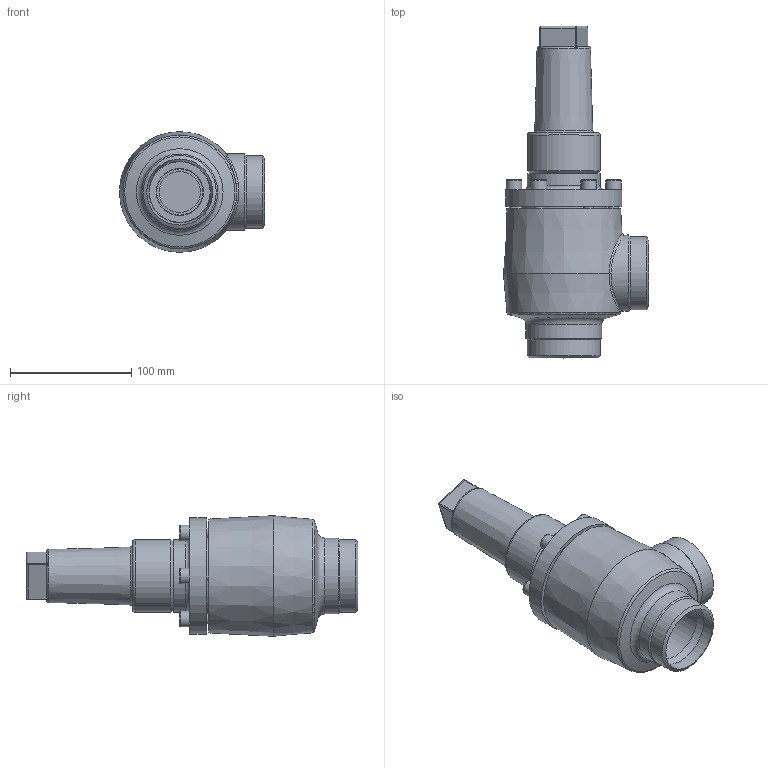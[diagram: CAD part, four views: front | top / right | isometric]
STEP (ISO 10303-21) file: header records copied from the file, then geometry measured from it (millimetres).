
FILE_DESCRIPTION(/* description */ (''),/* implementation_level */ '2;1');
FILE_NAME(/* name */ 'A:\Zeichnungsverwaltung\3D-Zeichnungen\Z-ZG\AVB\16400\15\E\AVB E AE 16400-050 PS40.stp',/* time_stamp */ '2020-10-28T10:44:54+01:00',/* author */ ('Nazzal.Yo'),/* organization */ (''),/* preprocessor_version */ 'ST-DEVELOPER v16.1',/* originating_system */ 'Autodesk Inventor 2016',/* authorisation */ '');
FILE_SCHEMA (('AUTOMOTIVE_DESIGN { 1 0 10303 214 3 1 1 }'));
Length unit declared in the file: millimetre
Products named in the file (6): 16400E15.5034004; Zylinderschraube-DIN912_M 8x 25; Deckel16300E15-DN40-50_Standard; AVB16300E15_Deck+Schr-DN40-50_Standard; Kappe16402_DN040-65_Standard; AVB E AE 16400-050 PS40
Assembly tree (10 placements, depth 3):
  AVB E AE 16400-050 PS40
    16400E15.5034004
    AVB16300E15_Deck+Schr-DN40-50_Standard
      Zylinderschraube-DIN912_M 8x 25  x6
      Deckel16300E15-DN40-50_Standard
    Kappe16402_DN040-65_Standard
Bounding box: 119.78 x 274 x 99.55 mm (x, y, z)
Volume: 724926.9 mm3; surface area: 152846.8 mm2
Topology: 9 solids, 9 shells, 200 faces, 426 edges, 272 vertices
Faces by surface type: plane 91, cylinder 61, cone 27, torus 17, bspline 4
Full cylindrical faces by diameter (mm): 6.647 x6, 8 x6, 9 x6, 13 x6, 20.5 x1, 27 x1, 31 x1, 34 x1, 38 x1, 39 x1, 44 x1, 48 x1, 49 x1, 49.5 x1, 50.1 x1, 51 x2, 51.1 x1, 52 x1, 54.5 x2, 55 x1, 60 x2, 60.3 x2, 62 x2, 62.629 x1, 63 x1, 70 x2, 96 x1
Entity records: 3778 total; most frequent: CARTESIAN_POINT 1049, DIRECTION 558, ORIENTED_EDGE 382, AXIS2_PLACEMENT_3D 260, EDGE_LOOP 236, EDGE_CURVE 191, VERTEX_POINT 159, FACE_OUTER_BOUND 130
